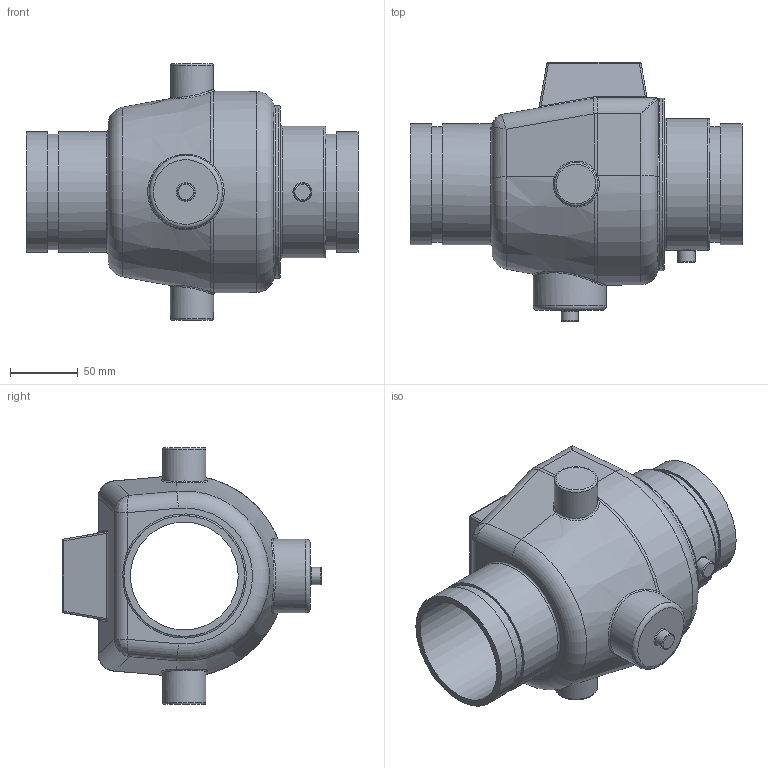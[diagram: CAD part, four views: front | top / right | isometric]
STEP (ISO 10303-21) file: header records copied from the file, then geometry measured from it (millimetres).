
FILE_DESCRIPTION(/* description */ ('VIC FIRELOCK CHECK VALVE SERIES 717-H','CAx-IF Rec.Pracs.---Representation and Presentation of Product Manufacturing Information (PMI)---4.0---2014-10-13'),/* implementation_level */ '2;1');
FILE_NAME(/* name */ 'C:\Users\Vjadhav\AppData\Roaming\Autodesk\ApplicationPlugins\Back Up\Victaulic_FP-FireLock_Valve Check_Series 717H (OGS)\Victaulic_FP-FireLock_Valve Check_Series 717H (OGS)_3 (80).stp',/* time_stamp */ '2020-07-20T15:23:13+06:00',/* author */ ('cps_temp'),/* organization */ ('Victaulic'),/* preprocessor_version */ 'ST-DEVELOPER v17.2',/* originating_system */ 'Autodesk Inventor 2019',/* authorisation */ '');
FILE_SCHEMA (('AP242_MANAGED_MODEL_BASED_3D_ENGINEERING_MIM_LF { 1 0 10303 442 1 1 4 }'));
Length unit declared in the file: inch
Products named in the file (1): 717H-03.0
Bounding box: 244.35 x 190.63 x 188.98 mm (x, y, z)
Volume: 1728897.3 mm3; surface area: 185442 mm2
Topology: 1 solids, 1 shells, 136 faces, 335 edges, 203 vertices
Faces by surface type: cylinder 43, bspline 42, plane 26, torus 17, sphere 6, cone 2
Full cylindrical faces by diameter (mm): 12.7 x2, 31.75 x2, 53.975 x1, 79.35 x1, 84.938 x2, 88.9 x3, 97.028 x1, 127 x1
Entity records: 6453 total; most frequent: CARTESIAN_POINT 3055, DIRECTION 695, ORIENTED_EDGE 664, EDGE_CURVE 332, AXIS2_PLACEMENT_3D 307, VERTEX_POINT 204, CIRCLE 163, EDGE_LOOP 144
